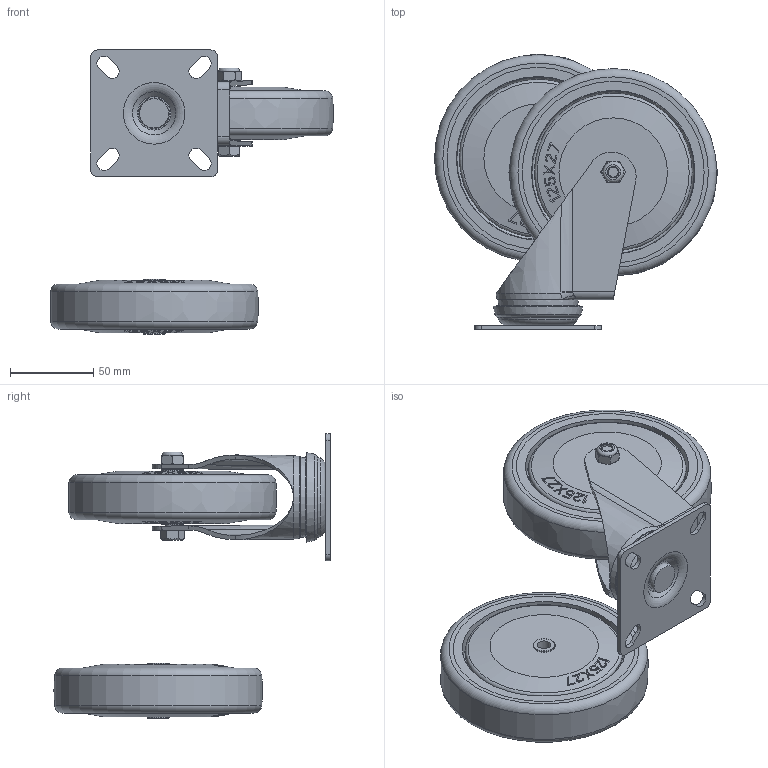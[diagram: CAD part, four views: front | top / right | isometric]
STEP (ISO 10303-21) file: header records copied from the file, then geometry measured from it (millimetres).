
FILE_DESCRIPTION(('STEP AP203'),'1');
FILE_NAME('E:/Pomoc/Strongo/344a39J125rZPE.stp',' ',(' '),(' '),'XStep 1.0',' ',' ');
FILE_SCHEMA(('CONFIG_CONTROL_DESIGN'));
Length unit declared in the file: metre
Products named in the file (3): Assembly156; Assembly124; Next assembly relationship
Bounding box: 169.56 x 165.5 x 170.28 mm (x, y, z)
Volume: 496280.6 mm3; surface area: 328220.9 mm2
Topology: 128 solids, 128 shells, 3345 faces, 9301 edges, 6172 vertices
Faces by surface type: plane 2335, cone 241, torus 229, bspline 219, cylinder 217, sphere 104
Full cylindrical faces by diameter (mm): 2.076 x4, 4.014 x2, 7 x1, 8 x19, 8.3 x4, 12 x8, 12.2 x2, 12.3 x4, 12.5 x1, 13.2 x4, 17.4 x4, 18 x4, 18.5 x2, 26 x4, 29 x4, 32 x6, 40 x2, 92.5 x4, 94.5 x4, 109 x4
Entity records: 57050 total; most frequent: CARTESIAN_POINT 19938, ORIENTED_EDGE 7970, DIRECTION 6800, EDGE_CURVE 3985, LINE 2824, VECTOR 2824, VERTEX_POINT 2688, AXIS2_PLACEMENT_3D 1988
